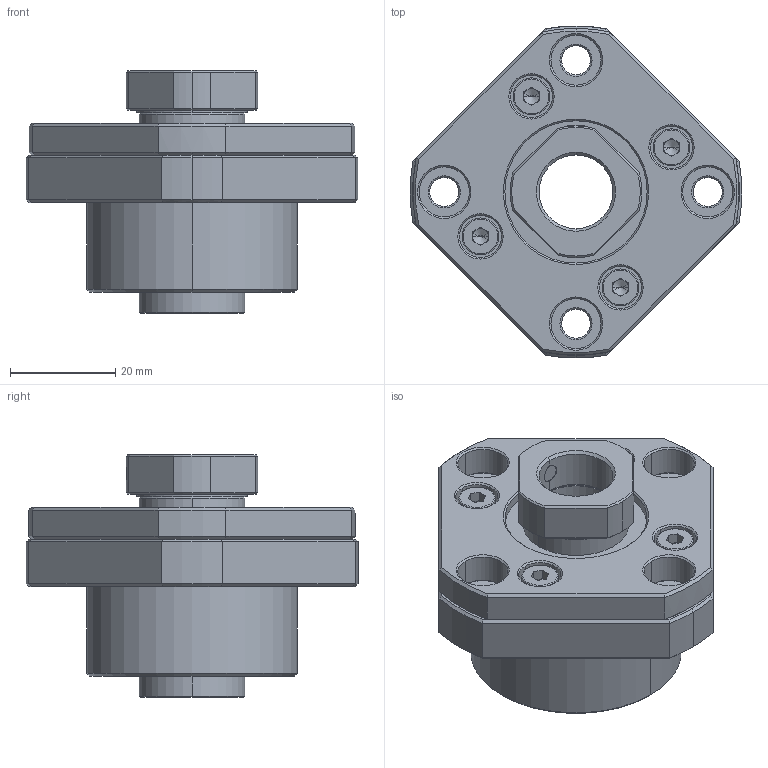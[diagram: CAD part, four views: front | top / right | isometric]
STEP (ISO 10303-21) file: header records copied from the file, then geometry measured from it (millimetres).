
FILE_DESCRIPTION (( 'STEP AP203' ), '1' );
FILE_NAME ('FSGK-15_203.STEP', '2013-02-28T00:27:02', ( '' ), ( '' ), 'SwSTEP 2.0', 'SolidWorks 2012', '' );
FILE_SCHEMA (( 'CONFIG_CONTROL_DESIGN' ));
Length unit declared in the file: millimetre
Products named in the file (1): FSGK-15_203
Bounding box: 62.88 x 63 x 46 mm (x, y, z)
Volume: 52197.1 mm3; surface area: 18577.1 mm2
Topology: 1 solids, 13 shells, 418 faces, 935 edges, 555 vertices
Faces by surface type: plane 138, cone 124, cylinder 116, torus 40
Entity records: 11760 total; most frequent: DIRECTION 2187, CARTESIAN_POINT 2144, ORIENTED_EDGE 1850, EDGE_CURVE 925, AXIS2_PLACEMENT_3D 898, VERTEX_POINT 555, CIRCLE 479, EDGE_LOOP 472
